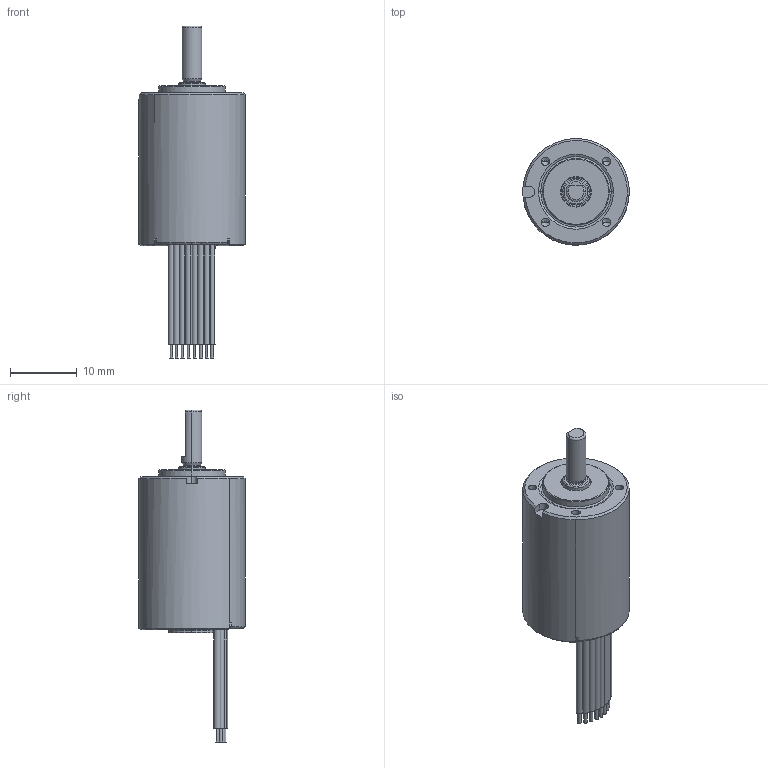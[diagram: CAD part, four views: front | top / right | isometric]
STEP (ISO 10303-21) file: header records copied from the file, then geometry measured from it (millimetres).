
FILE_DESCRIPTION (( 'STEP AP203' ), '1' );
FILE_NAME ('○TB16S------- -.STEP', '2026-09-09T06:53:42', ( '' ), ( '' ), 'SwSTEP 2.0', 'SolidWorks 2026', '' );
FILE_SCHEMA (( 'CONFIG_CONTROL_DESIGN' ));
Length unit declared in the file: millimetre
Products named in the file (1): ○TB16S------- -
Bounding box: 16 x 15.99 x 49.9 mm (x, y, z)
Volume: 4828.6 mm3; surface area: 2086.5 mm2
Topology: 1 solids, 1 shells, 175 faces, 405 edges, 249 vertices
Faces by surface type: cylinder 86, plane 45, torus 22, cone 22
Entity records: 5102 total; most frequent: DIRECTION 971, CARTESIAN_POINT 905, ORIENTED_EDGE 794, AXIS2_PLACEMENT_3D 413, EDGE_CURVE 397, VERTEX_POINT 249, CIRCLE 237, EDGE_LOOP 200
